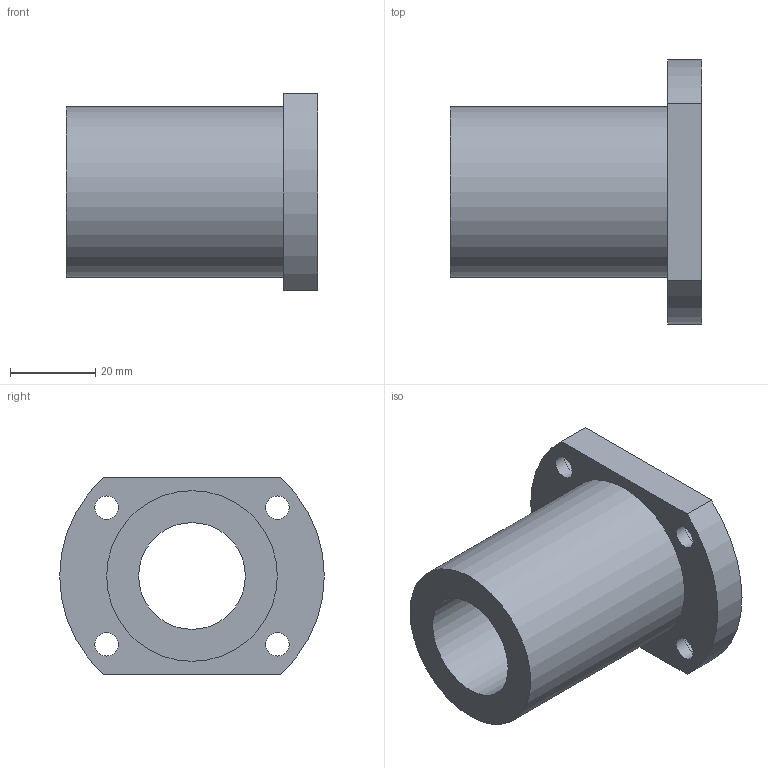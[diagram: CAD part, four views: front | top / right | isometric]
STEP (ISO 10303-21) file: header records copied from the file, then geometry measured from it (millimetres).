
FILE_DESCRIPTION(/* description */ ('Unknown'),/* implementation_level */ '2;1');
FILE_NAME(/* name */ 'LMH25UU',/* time_stamp */ '2025-02-03T14:11:43+08:00',/* author */ ('Unknown'),/* organization */ ('Unknown'),/* preprocessor_version */ 'ST-DEVELOPER v18.102',/* originating_system */ 'Solid Edge',/* authorisation */ 'Unknown');
FILE_SCHEMA (('AUTOMOTIVE_DESIGN {1 0 10303 214 3 1 1}'));
Length unit declared in the file: millimetre
Products named in the file (1): LMH25UU
Bounding box: 59 x 62 x 46 mm (x, y, z)
Volume: 54055.9 mm3; surface area: 17268.1 mm2
Topology: 1 solids, 1 shells, 21 faces, 42 edges, 28 vertices
Faces by surface type: cylinder 12, plane 9
Full cylindrical faces by diameter (mm): 5.5 x4, 9 x4, 25 x1, 40 x1
Entity records: 560 total; most frequent: DIRECTION 100, CARTESIAN_POINT 82, ORIENTED_EDGE 64, EDGE_LOOP 46, FACE_BOUND 46, AXIS2_PLACEMENT_3D 46, EDGE_CURVE 32, VERTEX_POINT 28
